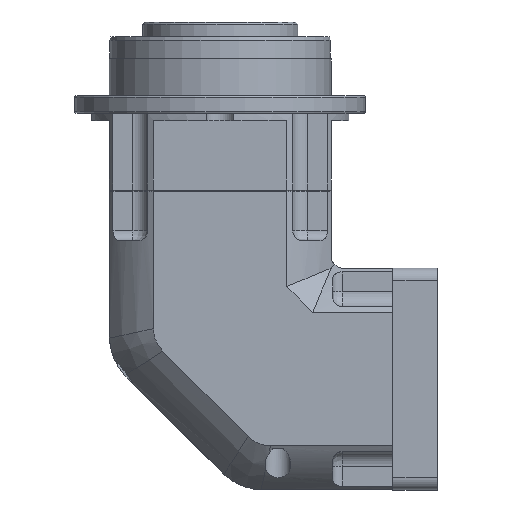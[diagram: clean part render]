
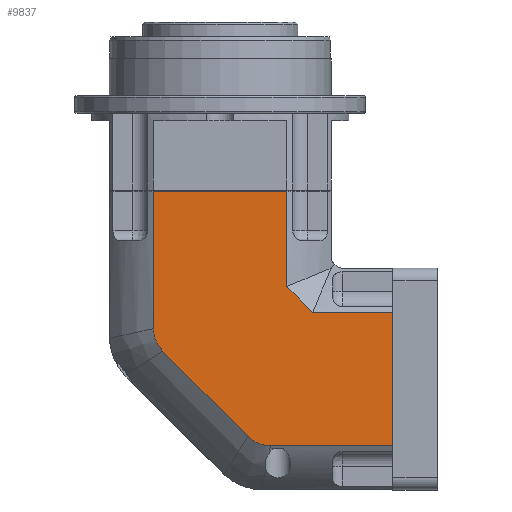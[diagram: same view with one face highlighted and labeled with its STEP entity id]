
A CAD part, left-side view. The second image highlights one B-rep face of the part: STEP entity #9837.
In plain terms, the highlighted planar face has unit normal (-1, 0, 0).
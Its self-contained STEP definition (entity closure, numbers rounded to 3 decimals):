
#6259=CARTESIAN_POINT('',(-45.,27.042,121.2));
#6260=VERTEX_POINT('',#6259);
#6268=CARTESIAN_POINT('',(-45.,-27.042,121.2));
#6269=VERTEX_POINT('',#6268);
#6270=CARTESIAN_POINT('',(-45.,-27.042,121.2));
#6271=DIRECTION('',(0.0,1.0,0.0));
#6272=VECTOR('',#6271,54.083);
#6273=LINE('',#6270,#6272);
#6274=EDGE_CURVE('',#6269,#6260,#6273,.T.);
#7002=CARTESIAN_POINT('',(-45.,-70.1,72.042));
#7003=VERTEX_POINT('',#7002);
#7011=CARTESIAN_POINT('',(-45.,-70.1,17.958));
#7012=VERTEX_POINT('',#7011);
#7013=CARTESIAN_POINT('',(-45.,-70.1,17.958));
#7014=DIRECTION('',(0.0,0.0,1.0));
#7015=VECTOR('',#7014,54.083);
#7016=LINE('',#7013,#7015);
#7017=EDGE_CURVE('',#7012,#7003,#7016,.T.);
#7700=CARTESIAN_POINT('',(-45.,-20.493,17.958));
#7701=VERTEX_POINT('',#7700);
#7709=CARTESIAN_POINT('',(-45.,-11.388,21.73));
#7710=VERTEX_POINT('',#7709);
#7711=CARTESIAN_POINT('',(-45.,-20.493,17.958));
#7712=CARTESIAN_POINT('',(-45.,-18.795,17.958));
#7713=CARTESIAN_POINT('',(-45.,-17.13,18.274));
#7714=CARTESIAN_POINT('',(-45.,-13.992,19.572));
#7715=CARTESIAN_POINT('',(-45.,-12.59,20.527));
#7716=CARTESIAN_POINT('',(-45.,-11.388,21.73));
#7717=B_SPLINE_CURVE_WITH_KNOTS('',3,(#7711,#7712,#7713,#7714,#7715,#7716),.UNSPECIFIED.,.F.,.U.,(4,2,4),(0.0,0.51,1.02),.UNSPECIFIED.);
#7718=EDGE_CURVE('',#7701,#7710,#7717,.T.);
#9471=CARTESIAN_POINT('',(-45.,-20.493,17.958));
#9472=DIRECTION('',(0.0,-1.0,0.0));
#9473=VECTOR('',#9472,49.607);
#9474=LINE('',#9471,#9473);
#9475=EDGE_CURVE('',#7701,#7012,#9474,.T.);
#9530=CARTESIAN_POINT('',(-45.0,-37.561,72.042));
#9531=VERTEX_POINT('',#9530);
#9539=CARTESIAN_POINT('',(-45.,-37.561,72.042));
#9540=DIRECTION('',(0.0,-1.0,0.0));
#9541=VECTOR('',#9540,32.539);
#9542=LINE('',#9539,#9541);
#9543=EDGE_CURVE('',#9531,#7003,#9542,.T.);
#9673=CARTESIAN_POINT('',(-45.,-27.042,82.561));
#9674=VERTEX_POINT('',#9673);
#9675=CARTESIAN_POINT('',(-45.,-27.042,82.561));
#9676=DIRECTION('',(0.0,0.0,1.0));
#9677=VECTOR('',#9676,38.639);
#9678=LINE('',#9675,#9677);
#9679=EDGE_CURVE('',#9674,#6269,#9678,.T.);
#9733=CARTESIAN_POINT('',(-45.0,27.042,65.493));
#9734=VERTEX_POINT('',#9733);
#9744=CARTESIAN_POINT('',(-45.,27.042,65.493));
#9745=DIRECTION('',(0.0,0.0,1.0));
#9746=VECTOR('',#9745,55.707);
#9747=LINE('',#9744,#9746);
#9748=EDGE_CURVE('',#9734,#6260,#9747,.T.);
#9787=CARTESIAN_POINT('',(-45.,23.27,56.388));
#9788=VERTEX_POINT('',#9787);
#9789=CARTESIAN_POINT('',(-45.,23.27,56.388));
#9790=DIRECTION('',(0.,-0.707,-0.707));
#9791=VECTOR('',#9790,49.014);
#9792=LINE('',#9789,#9791);
#9793=EDGE_CURVE('',#9788,#7710,#9792,.T.);
#9807=CARTESIAN_POINT('',(-45.,-27.042,0.0));
#9808=DIRECTION('',(-1.0,0.0,0.0));
#9809=DIRECTION('',(0.0,0.0,1.0));
#9810=AXIS2_PLACEMENT_3D('',#9807,#9808,#9809);
#9811=PLANE('',#9810);
#9812=ORIENTED_EDGE('',*,*,#6274,.T.);
#9813=ORIENTED_EDGE('',*,*,#9748,.F.);
#9814=CARTESIAN_POINT('',(-45.,23.27,56.388));
#9815=CARTESIAN_POINT('',(-45.,24.471,57.589));
#9816=CARTESIAN_POINT('',(-45.,25.426,58.989));
#9817=CARTESIAN_POINT('',(-45.,26.726,62.126));
#9818=CARTESIAN_POINT('',(-45.,27.042,63.793));
#9819=CARTESIAN_POINT('',(-45.,27.042,65.493));
#9820=B_SPLINE_CURVE_WITH_KNOTS('',3,(#9814,#9815,#9816,#9817,#9818,#9819),.UNSPECIFIED.,.F.,.U.,(4,2,4),(0.0,0.51,1.02),.UNSPECIFIED.);
#9821=EDGE_CURVE('',#9788,#9734,#9820,.T.);
#9822=ORIENTED_EDGE('',*,*,#9821,.F.);
#9823=ORIENTED_EDGE('',*,*,#9793,.T.);
#9824=ORIENTED_EDGE('',*,*,#7718,.F.);
#9825=ORIENTED_EDGE('',*,*,#9475,.T.);
#9826=ORIENTED_EDGE('',*,*,#7017,.T.);
#9827=ORIENTED_EDGE('',*,*,#9543,.F.);
#9828=CARTESIAN_POINT('',(-45.,-37.561,72.042));
#9829=DIRECTION('',(0.0,0.707,0.707));
#9830=VECTOR('',#9829,14.877);
#9831=LINE('',#9828,#9830);
#9832=EDGE_CURVE('',#9531,#9674,#9831,.T.);
#9833=ORIENTED_EDGE('',*,*,#9832,.T.);
#9834=ORIENTED_EDGE('',*,*,#9679,.T.);
#9835=EDGE_LOOP('',(#9812,#9813,#9822,#9823,#9824,#9825,#9826,#9827,#9833,#9834));
#9836=FACE_OUTER_BOUND('',#9835,.T.);
#9837=ADVANCED_FACE('',(#9836),#9811,.T.);
